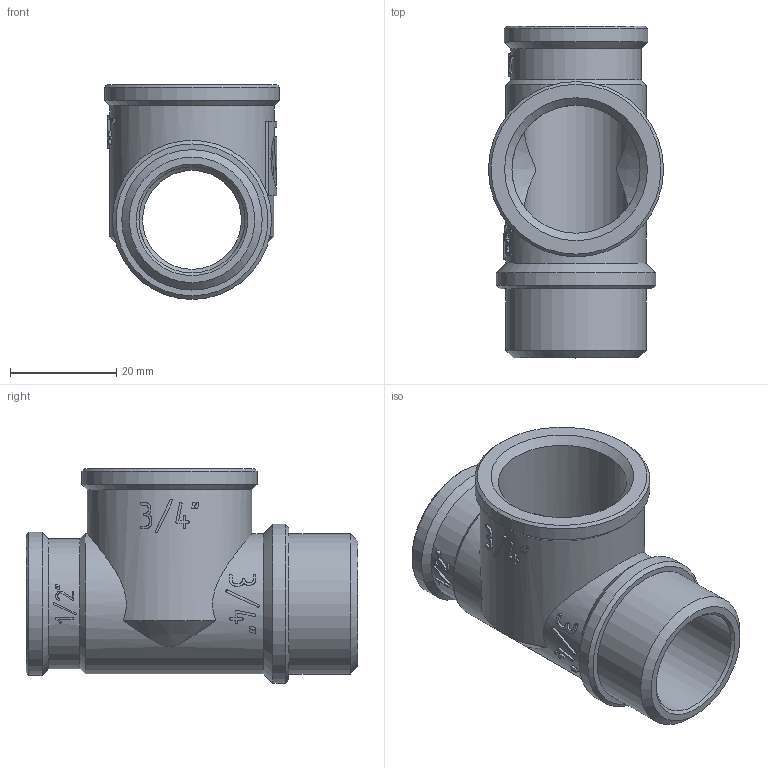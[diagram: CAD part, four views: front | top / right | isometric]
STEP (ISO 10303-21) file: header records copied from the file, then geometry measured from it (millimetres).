
FILE_DESCRIPTION(('STEP AP203'), '1');
FILE_NAME('ÂÐ.752249.037 - VTr.134.RN.040505 Òðîé. ñ ïåðåõ. íà íàð. ðåçüá', '2024-06-26T11:11:11', ('Boss'), (''), 'C3D Converter', 'C3D Toolkit', '');
FILE_SCHEMA(('CONFIG_CONTROL_DESIGN'));
Length unit declared in the file: millimetre
Products named in the file (1): ВР.752249.037
Bounding box: 33 x 62.5 x 40.5 mm (x, y, z)
Volume: 19005.1 mm3; surface area: 12141.5 mm2
Topology: 1 solids, 1 shells, 352 faces, 988 edges, 654 vertices
Faces by surface type: extrusion 196, plane 111, cylinder 29, cone 16
Full cylindrical faces by diameter (mm): 18.632 x1, 20 x1, 24.118 x1, 24.5 x1, 26.4 x1, 26.441 x1, 27 x1, 30 x1, 31 x1, 33 x1
Entity records: 16460 total; most frequent: CARTESIAN_POINT 8523, ORIENTED_EDGE 1924, DIRECTION 1032, EDGE_CURVE 962, VERTEX_POINT 654, B_SPLINE_CURVE_WITH_KNOTS 603, VECTOR 548, EDGE_LOOP 398
